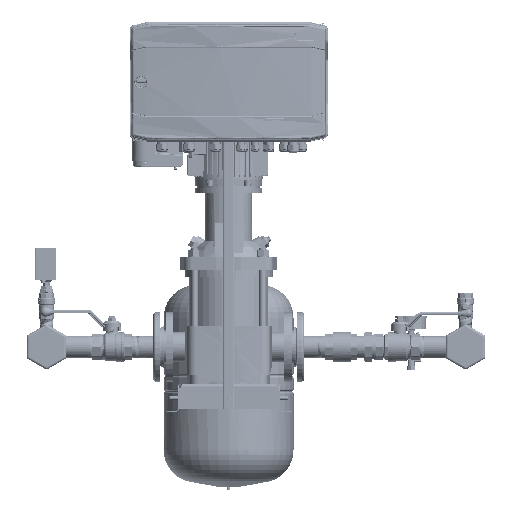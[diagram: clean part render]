
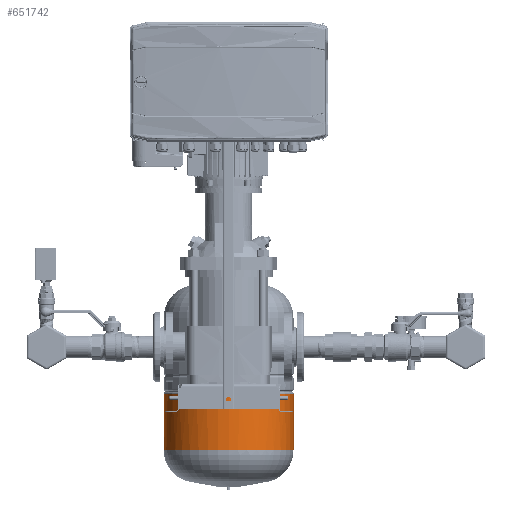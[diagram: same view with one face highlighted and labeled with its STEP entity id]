
A CAD part, left-side view. The second image highlights one B-rep face of the part: STEP entity #651742.
In plain terms, the highlighted cylindrical face has radius 140 mm (diameter 280 mm), a partial arc.
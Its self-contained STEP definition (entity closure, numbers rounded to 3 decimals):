
#644851=CARTESIAN_POINT('Vertex',(-140.,0.,-20.533)) ;
#644854=CARTESIAN_POINT('Axis2P3D Location',(0.,0.,-20.533)) ;
#644858=CARTESIAN_POINT('Vertex',(0.,-140.,-20.533)) ;
#644913=CARTESIAN_POINT('Vertex',(0.,140.,-20.533)) ;
#644916=CARTESIAN_POINT('Axis2P3D Location',(0.,0.,-20.533)) ;
#651657=CARTESIAN_POINT('Axis2P3D Location',(0.,0.,-85.867)) ;
#651662=CARTESIAN_POINT('Line Origine',(0.,140.,-85.867)) ;
#651666=CARTESIAN_POINT('Vertex',(0.,140.,-142.492)) ;
#651669=CARTESIAN_POINT('Line Origine',(0.,-140.,-85.867)) ;
#651673=CARTESIAN_POINT('Vertex',(0.,-140.,-142.492)) ;
#651711=CARTESIAN_POINT('Control Point',(-140.,0.,-142.492)) ;
#651712=CARTESIAN_POINT('Control Point',(-140.,21.991,-142.492)) ;
#651713=CARTESIAN_POINT('Control Point',(-135.682,43.982,-142.492)) ;
#651714=CARTESIAN_POINT('Control Point',(-127.042,64.842,-142.492)) ;
#651715=CARTESIAN_POINT('Control Point',(-102.048,102.048,-142.492)) ;
#651716=CARTESIAN_POINT('Control Point',(-64.842,127.042,-142.492)) ;
#651717=CARTESIAN_POINT('Control Point',(-43.982,135.682,-142.492)) ;
#651718=CARTESIAN_POINT('Control Point',(-21.991,140.,-142.492)) ;
#651719=CARTESIAN_POINT('Control Point',(0.,140.,-142.492)) ;
#651720=CARTESIAN_POINT('Vertex',(-140.,0.,-142.492)) ;
#651724=CARTESIAN_POINT('Control Point',(0.,-140.,-142.492)) ;
#651725=CARTESIAN_POINT('Control Point',(-21.991,-140.,-142.492)) ;
#651726=CARTESIAN_POINT('Control Point',(-43.982,-135.682,-142.492)) ;
#651727=CARTESIAN_POINT('Control Point',(-64.842,-127.042,-142.492)) ;
#651728=CARTESIAN_POINT('Control Point',(-102.048,-102.048,-142.492)) ;
#651729=CARTESIAN_POINT('Control Point',(-127.042,-64.842,-142.492)) ;
#651730=CARTESIAN_POINT('Control Point',(-135.682,-43.982,-142.492)) ;
#651731=CARTESIAN_POINT('Control Point',(-140.,-21.991,-142.492)) ;
#651732=CARTESIAN_POINT('Control Point',(-140.,0.,-142.492)) ;
#651664=VECTOR('Line Direction',#651663,1.) ;
#651671=VECTOR('Line Direction',#651670,1.) ;
#644855=DIRECTION('Axis2P3D Direction',(0.,0.,-1.)) ;
#644917=DIRECTION('Axis2P3D Direction',(0.,0.,-1.)) ;
#651658=DIRECTION('Axis2P3D Direction',(0.,0.,-1.)) ;
#651659=DIRECTION('Axis2P3D XDirection',(0.,-1.,0.)) ;
#651663=DIRECTION('Vector Direction',(0.,0.,-1.)) ;
#651670=DIRECTION('Vector Direction',(0.,0.,-1.)) ;
#644856=AXIS2_PLACEMENT_3D('Circle Axis2P3D',#644854,#644855,$) ;
#644918=AXIS2_PLACEMENT_3D('Circle Axis2P3D',#644916,#644917,$) ;
#651660=AXIS2_PLACEMENT_3D('Cylinder Axis2P3D',#651657,#651658,#651659) ;
#651665=LINE('Line',#651662,#651664) ;
#651672=LINE('Line',#651669,#651671) ;
#644857=CIRCLE('generated circle',#644856,140.) ;
#644919=CIRCLE('generated circle',#644918,140.) ;
#651661=CYLINDRICAL_SURFACE('generated cylinder',#651660,140.) ;
#644860=EDGE_CURVE('',#644852,#644859,#644857,.F.) ;
#644920=EDGE_CURVE('',#644914,#644852,#644919,.F.) ;
#651668=EDGE_CURVE('',#644914,#651667,#651665,.T.) ;
#651675=EDGE_CURVE('',#651674,#644859,#651672,.F.) ;
#651722=EDGE_CURVE('',#651721,#651667,#651710,.T.) ;
#651733=EDGE_CURVE('',#651674,#651721,#651723,.T.) ;
#651735=ORIENTED_EDGE('',*,*,#651675,.T.) ;
#651736=ORIENTED_EDGE('',*,*,#644860,.F.) ;
#651737=ORIENTED_EDGE('',*,*,#644920,.F.) ;
#651738=ORIENTED_EDGE('',*,*,#651668,.T.) ;
#651739=ORIENTED_EDGE('',*,*,#651722,.F.) ;
#651740=ORIENTED_EDGE('',*,*,#651733,.F.) ;
#651734=EDGE_LOOP('',(#651735,#651736,#651737,#651738,#651739,#651740)) ;
#644852=VERTEX_POINT('',#644851) ;
#644859=VERTEX_POINT('',#644858) ;
#644914=VERTEX_POINT('',#644913) ;
#651667=VERTEX_POINT('',#651666) ;
#651674=VERTEX_POINT('',#651673) ;
#651721=VERTEX_POINT('',#651720) ;
#651742=ADVANCED_FACE('MANIFOLD_SOLID_BREP #40',(#651741),#651661,.T.) ;
#651710=B_SPLINE_CURVE_WITH_KNOTS('',5,(#651711,#651712,#651713,#651714,#651715,#651716,#651717,#651718,#651719),.UNSPECIFIED.,.F.,.U.,(6,3,6),(0.,109.956,219.911),.UNSPECIFIED.) ;
#651723=B_SPLINE_CURVE_WITH_KNOTS('',5,(#651724,#651725,#651726,#651727,#651728,#651729,#651730,#651731,#651732),.UNSPECIFIED.,.F.,.U.,(6,3,6),(-219.911,-109.956,0.),.UNSPECIFIED.) ;
#651741=FACE_OUTER_BOUND('',#651734,.T.) ;
